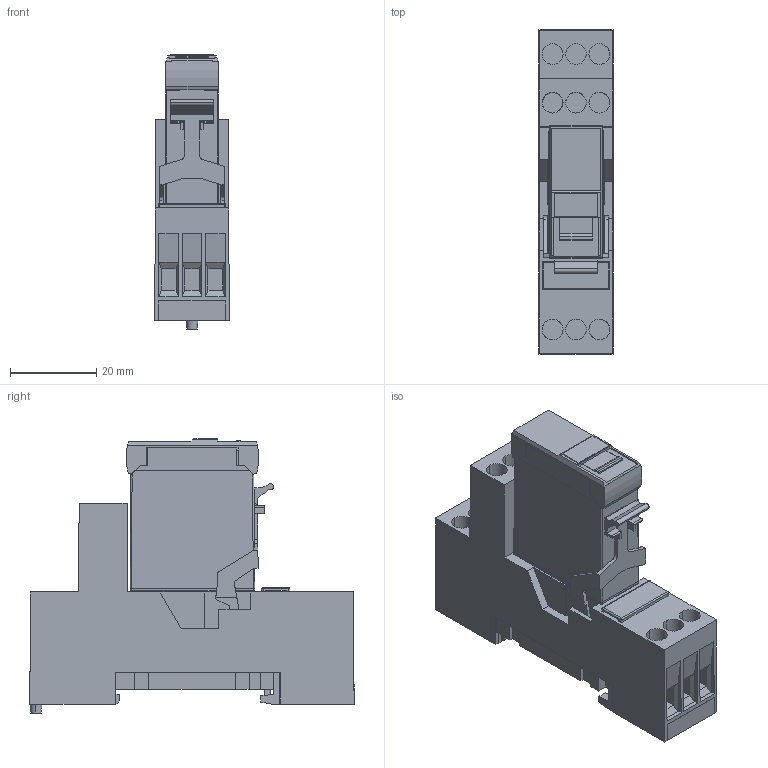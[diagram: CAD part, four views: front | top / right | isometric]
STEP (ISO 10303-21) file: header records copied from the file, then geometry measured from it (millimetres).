
FILE_DESCRIPTION (( 'STEP AP214' ), '1' );
FILE_NAME ('C12_plus_S12.STEP', '2024-04-04T08:17:50', ( '' ), ( '' ), 'SwSTEP 2.0', 'SolidWorks 2022', '' );
FILE_SCHEMA (( 'AUTOMOTIVE_DESIGN' ));
Length unit declared in the file: millimetre
Products named in the file (1): C12_plus_S12
Bounding box: 17.2 x 75.03 x 63.4 mm (x, y, z)
Volume: 41545.4 mm3; surface area: 19755.4 mm2
Topology: 1 solids, 35 shells, 1190 faces, 3181 edges, 2054 vertices
Faces by surface type: plane 1048, cylinder 124, cone 9, sphere 9
Entity records: 49408 total; most frequent: CARTESIAN_POINT 6755, ORIENTED_EDGE 6336, DIRECTION 5620, EDGE_CURVE 3168, VECTOR 2886, LINE 2886, VERTEX_POINT 2048, AXIS2_PLACEMENT_3D 1367
